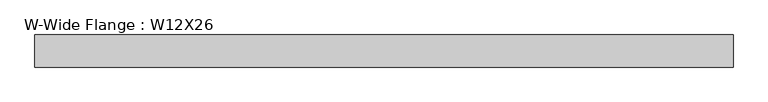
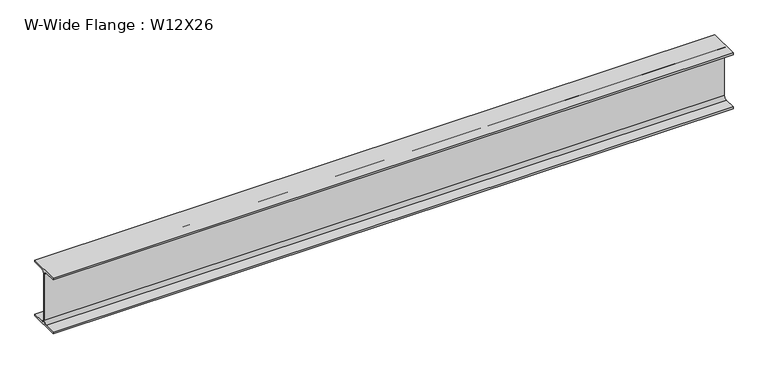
"""IFC4 building model written with IfcOpenShell, lengths in millimetres: beam geometry, W-Wide Flange : W12X26."""

from ifc_helpers import new_model, si_unit, point, frame, frame_2d, origin, place, context, project, spatial, polyline, circle_curve, trimmed, segment, composite_curve, outline, extrude, source, transform, mapped, element, save


def w_wide_flange_w12x26_8e34c184(model_context):
    return source(origin(), model_context, "Body", "SweptSolid", [
        extrude(outline(composite_curve([segment(polyline([(82.4011719, -145.5539063), (82.4011719, -155.178125), (-82.4011719, -155.178125), (-82.4011719, -145.5539063), (-20.2902344, -145.5539063)]), True, "CONTINUOUS"), segment(trimmed(circle_curve(frame_2d((-20.2902344, -128.190625)), 17.3632812), [point((-20.2902344, -145.5539063))], [point((-2.9269531, -128.190625))], True, "CARTESIAN"), True, "CONTINUOUS"), segment(polyline([(-2.9269531, -128.190625), (-2.9269531, 128.190625)]), True, "CONTINUOUS"), segment(trimmed(circle_curve(frame_2d((-20.2902344, 128.190625)), 17.3632812), [point((-2.9269531, 128.190625))], [point((-20.2902344, 145.5539062))], True, "CARTESIAN"), True, "CONTINUOUS"), segment(polyline([(-20.2902344, 145.5539062), (-82.4011719, 145.5539062), (-82.4011719, 155.178125), (82.4011719, 155.178125), (82.4011719, 145.5539062), (20.2902344, 145.5539062)]), True, "CONTINUOUS"), segment(trimmed(circle_curve(frame_2d((20.2902344, 128.190625)), 17.3632812), [point((20.2902344, 145.5539062))], [point((2.9269531, 128.190625))], True, "CARTESIAN"), True, "CONTINUOUS"), segment(polyline([(2.9269531, 128.190625), (2.9269531, -128.190625)]), True, "CONTINUOUS"), segment(trimmed(circle_curve(frame_2d((20.2902344, -128.190625)), 17.3632812), [point((2.9269531, -128.190625))], [point((20.2902344, -145.5539063))], True, "CARTESIAN"), True, "CONTINUOUS"), segment(polyline([(20.2902344, -145.5539063), (82.4011719, -145.5539063)]), True, "CONTINUOUS")], self_intersect=False)), frame((-1796.5042969, 0.0, 0.0), z_axis=(1.0, 0.0, 0.0), x_axis=(0.0, 1.0, 0.0)), (0.0, 0.0, 1.0), 3576.8855469),
    ])


if __name__ == "__main__":
    model = new_model("IFC4")
    model_context = context("Model", 3, world=origin())
    ifc_project = project(units=[si_unit("LENGTHUNIT", "METRE", prefix="MILLI")], contexts=[model_context])
    site = spatial("IfcSite", under=ifc_project)
    building = spatial("IfcBuilding", under=site)
    placement = place(None, origin())
    w_wide_flange_w12x26_shape = w_wide_flange_w12x26_8e34c184(model_context)
    element("IfcBeam", 1, ObjectType="W-Wide Flange : W12X26", at=placement, inside=building, context=model_context, shape_type="MappedRepresentation", body=[
        mapped(w_wide_flange_w12x26_shape, transform((0.0, 0.0, 0.0), x_axis=(1.0, 0.0, 0.0), y_axis=(0.0, 1.0, 0.0), z_axis=(0.0, 0.0, 1.0))),
    ])
    save(model, "model.ifc")
